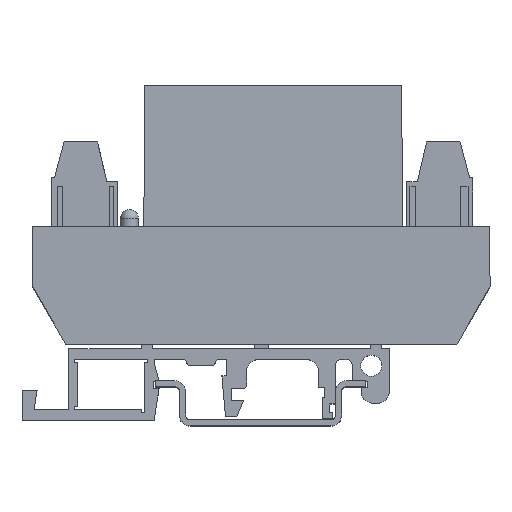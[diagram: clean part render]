
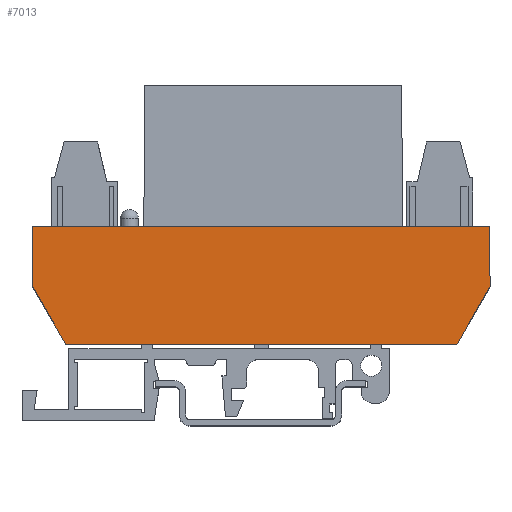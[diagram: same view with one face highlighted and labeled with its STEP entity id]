
A CAD part, top view. The second image highlights one B-rep face of the part: STEP entity #7013.
In plain terms, the highlighted planar face has unit normal (0, 0, 1) as drawn and (0, 0, -1) by its records, which use the part's own axes.
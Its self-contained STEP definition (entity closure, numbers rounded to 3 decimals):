
#735=FACE_OUTER_BOUND('',#1207,.T.);
#1207=EDGE_LOOP('',(#5995,#5996,#5997,#5998,#5999,#6000));
#1913=LINE('',#11027,#2717);
#1980=LINE('',#11198,#2784);
#1981=LINE('',#11200,#2785);
#1982=LINE('',#11202,#2786);
#1983=LINE('',#11203,#2787);
#1984=LINE('',#11204,#2788);
#2717=VECTOR('',#9050,65.2);
#2784=VECTOR('',#9171,10.);
#2785=VECTOR('',#9172,76.2);
#2786=VECTOR('',#9173,10.);
#2787=VECTOR('',#9174,11.);
#2788=VECTOR('',#9175,11.);
#3410=VERTEX_POINT('',#11024);
#3411=VERTEX_POINT('',#11026);
#3487=VERTEX_POINT('',#11196);
#3488=VERTEX_POINT('',#11197);
#3489=VERTEX_POINT('',#11199);
#3490=VERTEX_POINT('',#11201);
#4277=EDGE_CURVE('',#3410,#3411,#1913,.T.);
#4356=EDGE_CURVE('',#3487,#3488,#1980,.T.);
#4357=EDGE_CURVE('',#3489,#3487,#1981,.T.);
#4358=EDGE_CURVE('',#3490,#3489,#1982,.T.);
#4359=EDGE_CURVE('',#3411,#3490,#1983,.T.);
#4360=EDGE_CURVE('',#3488,#3410,#1984,.T.);
#5995=ORIENTED_EDGE('',*,*,#4356,.F.);
#5996=ORIENTED_EDGE('',*,*,#4357,.F.);
#5997=ORIENTED_EDGE('',*,*,#4358,.F.);
#5998=ORIENTED_EDGE('',*,*,#4359,.F.);
#5999=ORIENTED_EDGE('',*,*,#4277,.F.);
#6000=ORIENTED_EDGE('',*,*,#4360,.F.);
#6646=PLANE('',#7539);
#7013=ADVANCED_FACE('',(#735),#6646,.F.);
#7539=AXIS2_PLACEMENT_3D('',#11195,#9169,#9170);
#9050=DIRECTION('',(1.,0.,0.));
#9169=DIRECTION('center_axis',(0.,0.,
1.));
#9170=DIRECTION('ref_axis',(1.,0.,0.));
#9171=DIRECTION('',(0.,-1.,0.));
#9172=DIRECTION('',(-1.,0.,0.));
#9173=DIRECTION('',(0.,1.,0.));
#9174=DIRECTION('',(0.5,0.866,0.));
#9175=DIRECTION('',(0.5,-0.866,0.));
#11024=CARTESIAN_POINT('',(-32.6,0.,-6.73));
#11026=CARTESIAN_POINT('',(32.6,0.,-6.73));
#11027=CARTESIAN_POINT('',(32.6,0.,-6.73));
#11195=CARTESIAN_POINT('Origin',(-37.1,13.526,-6.73));
#11196=CARTESIAN_POINT('',(-38.1,19.526,-6.73));
#11197=CARTESIAN_POINT('',(-38.1,9.526,-6.73));
#11198=CARTESIAN_POINT('',(-38.1,9.526,-6.73));
#11199=CARTESIAN_POINT('',(38.1,19.526,-6.73));
#11200=CARTESIAN_POINT('',(-38.1,19.526,-6.73));
#11201=CARTESIAN_POINT('',(38.1,9.526,-6.73));
#11202=CARTESIAN_POINT('',(38.1,19.526,-6.73));
#11203=CARTESIAN_POINT('',(38.1,9.526,-6.73));
#11204=CARTESIAN_POINT('',(-32.6,0.,-6.73));
